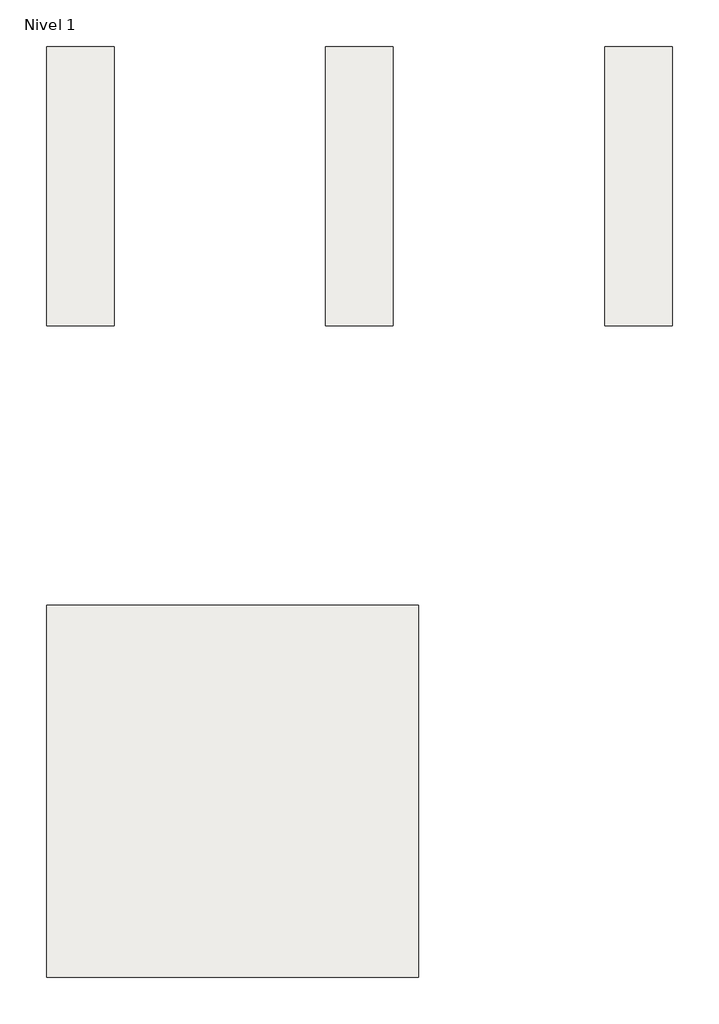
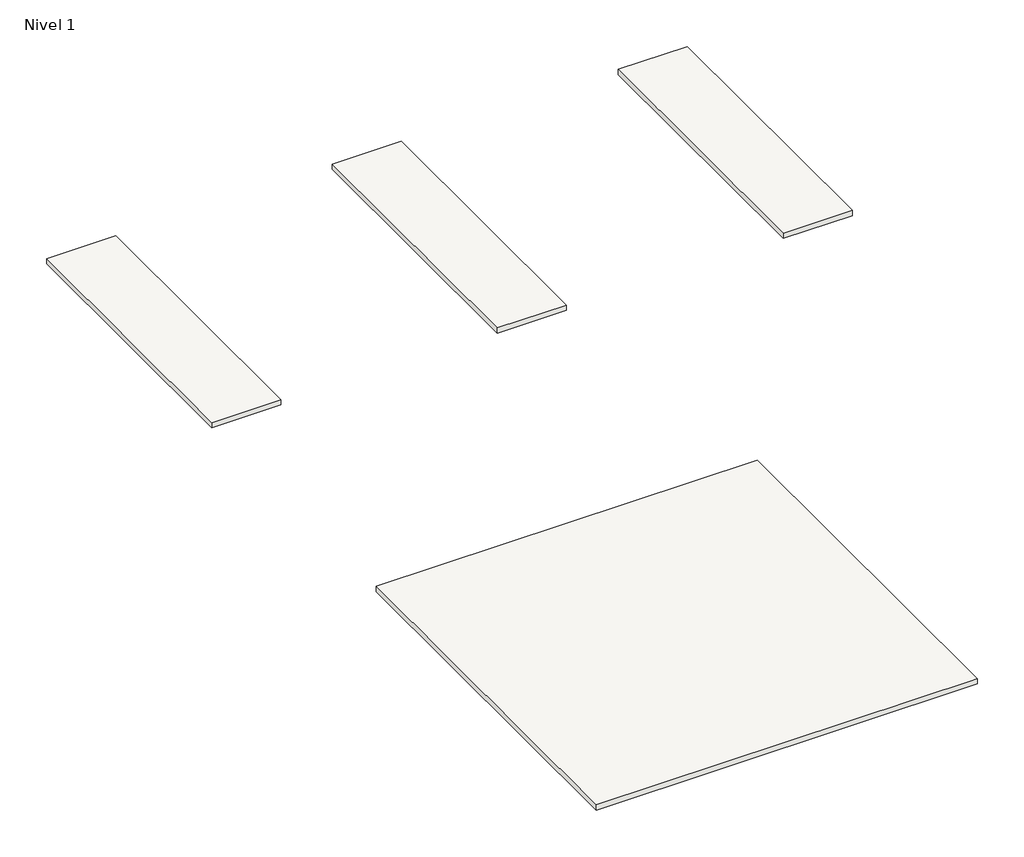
# One storey: 4 slabs.
"""IFC4 building model written with IfcOpenShell, lengths in millimetres."""

from ifc_helpers import new_model, si_unit, frame, origin, place, context, project, spatial, polyline, outline, extrude, element, save

model = new_model("IFC4")

# Units and contexts
model_context = context("Model", 3, world=origin())
ifc_project = project(units=[si_unit("LENGTHUNIT", "METRE", prefix="MILLI")], contexts=[model_context])

# Site, building, storey
site = spatial("IfcSite", under=ifc_project)
building = spatial("IfcBuilding", under=site)
storey = spatial("IfcBuildingStorey", under=building, Name="Nivel 1", Elevation=0.0)

# Slabs
placement = place(None, origin())
element("IfcSlab", 1, ObjectType="Annapurna Gris 14,5X60", at=placement, inside=storey, context=model_context, shape_type="SweptSolid", body=[
    extrude(outline(polyline([(0.0, 600.0), (145.0, 600.0), (145.0, 0.0), (0.0, 0.0), (0.0, 600.0)])), frame((0.0, 0.0, -11.3), z_axis=(0.0, 0.0, 1.0), x_axis=(1.0, 0.0, 0.0)), (0.0, 0.0, 1.0), 11.3),
])
element("IfcSlab", 2, ObjectType="Annapurna Antracita 14,5X60", at=placement, inside=storey, context=model_context, shape_type="SweptSolid", body=[
    extrude(outline(polyline([(600.0, 600.0), (745.0, 600.0), (745.0, 0.0), (600.0, 0.0), (600.0, 600.0)])), frame((0.0, 0.0, -11.3), z_axis=(0.0, 0.0, 1.0), x_axis=(1.0, 0.0, 0.0)), (0.0, 0.0, 1.0), 11.3),
])
element("IfcSlab", 3, ObjectType="Annapurna Negro 14,5X60", at=placement, inside=storey, context=model_context, shape_type="SweptSolid", body=[
    extrude(outline(polyline([(1200.0, 600.0), (1345.0, 600.0), (1345.0, 0.0), (1200.0, 0.0), (1200.0, 600.0)])), frame((0.0, 0.0, -11.3), z_axis=(0.0, 0.0, 1.0), x_axis=(1.0, 0.0, 0.0)), (0.0, 0.0, 1.0), 11.3),
])
element("IfcSlab", 4, ObjectType="Annapurna Gris 80X80 Rec.", at=placement, inside=storey, context=model_context, shape_type="SweptSolid", body=[
    extrude(outline(polyline([(0.0, -600.0), (800.0, -600.0), (800.0, -1400.0), (0.0, -1400.0), (0.0, -600.0)])), frame((0.0, 0.0, -11.3), z_axis=(0.0, 0.0, 1.0), x_axis=(1.0, 0.0, 0.0)), (0.0, 0.0, 1.0), 11.3),
])

save(model, "model.ifc")
